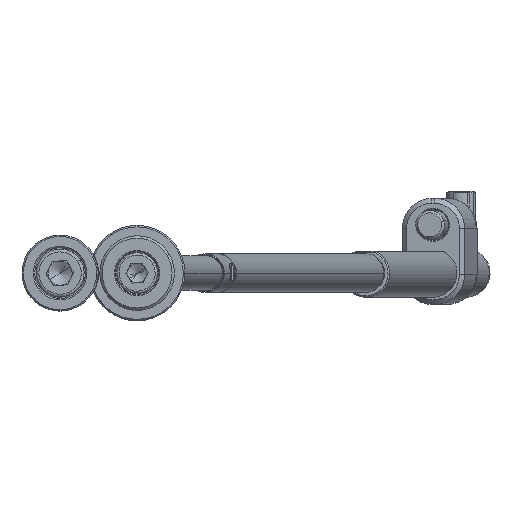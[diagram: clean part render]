
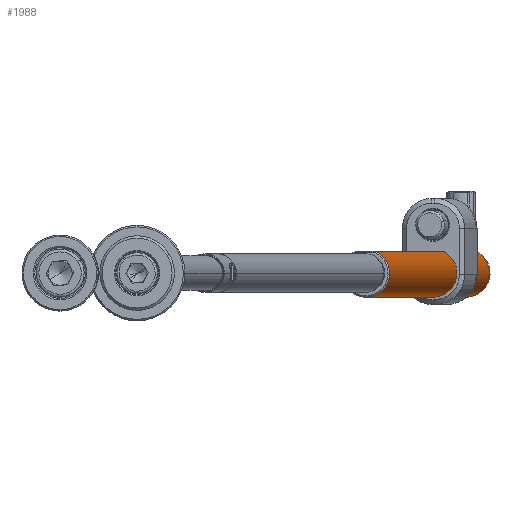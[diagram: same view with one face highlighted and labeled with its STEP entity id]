
A CAD part, front view. The second image highlights one B-rep face of the part: STEP entity #1988.
In plain terms, the highlighted cylindrical face has radius 5 mm (diameter 10 mm), a partial arc.
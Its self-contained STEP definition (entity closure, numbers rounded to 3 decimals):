
#494 = CARTESIAN_POINT ( 'NONE',  ( 4.438, -2.308, 8.074 ) ) ;
#575 = B_SPLINE_CURVE_WITH_KNOTS ( 'NONE', 3,
 ( #14051, #13965, #7361, #1901, #4220, #9495, #985, #4144, #4067, #9719, #8583, #12932, #14113, #3130, #11668, #7513, #494, #4852 ),
 .UNSPECIFIED., .F., .F.,
 ( 4, 2, 2, 2, 2, 2, 2, 2, 4 ),
 ( 0., 0.001, 0.001, 0.002, 0.002, 0.003, 0.003, 0.004, 0.005 ),
 .UNSPECIFIED. ) ;
#872 = CARTESIAN_POINT ( 'NONE',  ( 4.5, -2.179, 199.7 ) ) ;
#985 = CARTESIAN_POINT ( 'NONE',  ( 4.069, -2.906, 10.771 ) ) ;
#990 = CARTESIAN_POINT ( 'NONE',  ( 4.5, -2.179, 12.062 ) ) ;
#1345 = ORIENTED_EDGE ( 'NONE', *, *, #11323, .T. ) ;
#1901 = CARTESIAN_POINT ( 'NONE',  ( 4.259, -2.621, 11.47 ) ) ;
#1988 = ADVANCED_FACE ( 'NONE', ( #7499 ), #13073, .T. ) ;
#2059 = VERTEX_POINT ( 'NONE', #10267 ) ;
#2208 = LINE ( 'NONE', #11041, #12642 ) ;
#3054 = CARTESIAN_POINT ( 'NONE',  ( 0., 0., 0.3 ) ) ;
#3130 = CARTESIAN_POINT ( 'NONE',  ( 4.202, -2.711, 8.701 ) ) ;
#3205 = CARTESIAN_POINT ( 'NONE',  ( 4.5, -2.179, 200. ) ) ;
#3643 = DIRECTION ( 'NONE',  ( 0., 0., -1. ) ) ;
#3693 = AXIS2_PLACEMENT_3D ( 'NONE', #10173, #6939, #10242 ) ;
#3697 = AXIS2_PLACEMENT_3D ( 'NONE', #3054, #6270, #4131 ) ;
#4067 = CARTESIAN_POINT ( 'NONE',  ( 4., -3., 10.198 ) ) ;
#4070 = ORIENTED_EDGE ( 'NONE', *, *, #7314, .F. ) ;
#4106 = ORIENTED_EDGE ( 'NONE', *, *, #8902, .T. ) ;
#4131 = DIRECTION ( 'NONE',  ( 1., 0., 0. ) ) ;
#4144 = CARTESIAN_POINT ( 'NONE',  ( 4.015, -2.98, 10.396 ) ) ;
#4220 = CARTESIAN_POINT ( 'NONE',  ( 4.203, -2.709, 11.303 ) ) ;
#4299 = DIRECTION ( 'NONE',  ( 0., 0., -1. ) ) ;
#4852 = CARTESIAN_POINT ( 'NONE',  ( 4.5, -2.179, 7.938 ) ) ;
#5175 = VERTEX_POINT ( 'NONE', #13071 ) ;
#5259 = DIRECTION ( 'NONE',  ( 0., 0., -1. ) ) ;
#5349 = VERTEX_POINT ( 'NONE', #872 ) ;
#5511 = CIRCLE ( 'NONE', #3697, 5. ) ;
#5605 = VERTEX_POINT ( 'NONE', #6687 ) ;
#5958 = CIRCLE ( 'NONE', #3693, 5. ) ;
#6226 = EDGE_CURVE ( 'NONE', #5605, #2059, #2208, .T. ) ;
#6270 = DIRECTION ( 'NONE',  ( 0., 0., 1. ) ) ;
#6474 = AXIS2_PLACEMENT_3D ( 'NONE', #9708, #11885, #12998 ) ;
#6562 = VERTEX_POINT ( 'NONE', #990 ) ;
#6687 = CARTESIAN_POINT ( 'NONE',  ( 4.5, -2.179, 7.938 ) ) ;
#6939 = DIRECTION ( 'NONE',  ( 0., 0., -1. ) ) ;
#7211 = ORIENTED_EDGE ( 'NONE', *, *, #8494, .F. ) ;
#7314 = EDGE_CURVE ( 'NONE', #6562, #5605, #575, .T. ) ;
#7361 = CARTESIAN_POINT ( 'NONE',  ( 4.376, -2.421, 11.781 ) ) ;
#7499 = FACE_OUTER_BOUND ( 'NONE', #8971, .T. ) ;
#7513 = CARTESIAN_POINT ( 'NONE',  ( 4.376, -2.422, 8.22 ) ) ;
#8028 = VECTOR ( 'NONE', #5259, 1000. ) ;
#8150 = CARTESIAN_POINT ( 'NONE',  ( -5., 0., 200. ) ) ;
#8206 = CARTESIAN_POINT ( 'NONE',  ( -5., 0., 0.3 ) ) ;
#8494 = EDGE_CURVE ( 'NONE', #5349, #6562, #13151, .T. ) ;
#8583 = CARTESIAN_POINT ( 'NONE',  ( 4.014, -2.982, 9.617 ) ) ;
#8681 = VERTEX_POINT ( 'NONE', #8206 ) ;
#8902 = EDGE_CURVE ( 'NONE', #8681, #2059, #5511, .T. ) ;
#8971 = EDGE_LOOP ( 'NONE', ( #1345, #10609, #4106, #10322, #4070, #7211 ) ) ;
#9222 = LINE ( 'NONE', #8150, #14047 ) ;
#9495 = CARTESIAN_POINT ( 'NONE',  ( 4.108, -2.851, 10.952 ) ) ;
#9708 = CARTESIAN_POINT ( 'NONE',  ( 0., 0., 200. ) ) ;
#9719 = CARTESIAN_POINT ( 'NONE',  ( 4., -3., 9.809 ) ) ;
#10173 = CARTESIAN_POINT ( 'NONE',  ( 0., 0., 199.7 ) ) ;
#10242 = DIRECTION ( 'NONE',  ( 1., 0., 0. ) ) ;
#10267 = CARTESIAN_POINT ( 'NONE',  ( 4.5, -2.179, 0.3 ) ) ;
#10322 = ORIENTED_EDGE ( 'NONE', *, *, #6226, .F. ) ;
#10609 = ORIENTED_EDGE ( 'NONE', *, *, #13205, .T. ) ;
#11041 = CARTESIAN_POINT ( 'NONE',  ( 4.5, -2.179, 200. ) ) ;
#11323 = EDGE_CURVE ( 'NONE', #5349, #5175, #5958, .T. ) ;
#11668 = CARTESIAN_POINT ( 'NONE',  ( 4.258, -2.623, 8.532 ) ) ;
#11885 = DIRECTION ( 'NONE',  ( 0., 0., -1. ) ) ;
#12642 = VECTOR ( 'NONE', #4299, 1000. ) ;
#12932 = CARTESIAN_POINT ( 'NONE',  ( 4.068, -2.908, 9.236 ) ) ;
#12998 = DIRECTION ( 'NONE',  ( -1., 0., 0. ) ) ;
#13071 = CARTESIAN_POINT ( 'NONE',  ( -5., 0., 199.7 ) ) ;
#13073 = CYLINDRICAL_SURFACE ( 'NONE', #6474, 5. ) ;
#13151 = LINE ( 'NONE', #3205, #8028 ) ;
#13205 = EDGE_CURVE ( 'NONE', #5175, #8681, #9222, .T. ) ;
#13965 = CARTESIAN_POINT ( 'NONE',  ( 4.438, -2.307, 11.926 ) ) ;
#14047 = VECTOR ( 'NONE', #3643, 1000. ) ;
#14051 = CARTESIAN_POINT ( 'NONE',  ( 4.5, -2.179, 12.062 ) ) ;
#14113 = CARTESIAN_POINT ( 'NONE',  ( 4.107, -2.852, 9.051 ) ) ;
